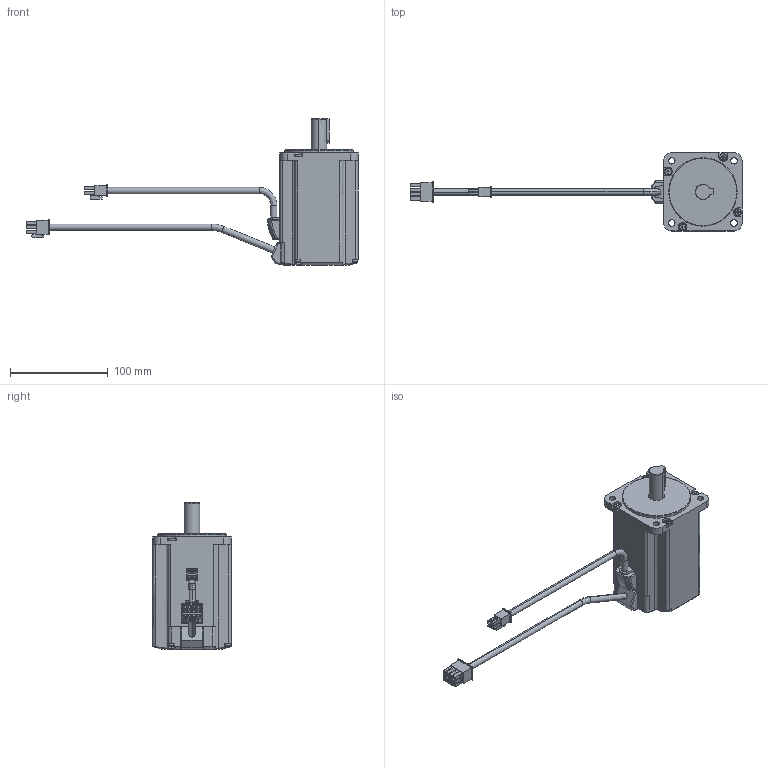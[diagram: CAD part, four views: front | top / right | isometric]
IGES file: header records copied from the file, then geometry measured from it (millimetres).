
Start section:  PTC IGES file: 10001038_rsmz-06ba_no-brake.igs
Global section: file name: 10001038_rsmz-06ba_no-brake.igs; native system: Pro/ENGINEER by Parametric Technology Corporation; preprocessor: 2004440; author: Administrator; organization: Unknown; date: 070829.201500; units: millimetre
Bounding box: 339.76 x 80 x 150 mm (x, y, z)
Volume: 672674.6 mm3; surface area: 67099.9 mm2
Topology: 1 solids, 1 shells, 494 faces, 1248 edges, 810 vertices
Faces by surface type: bspline 354, revolution 140
